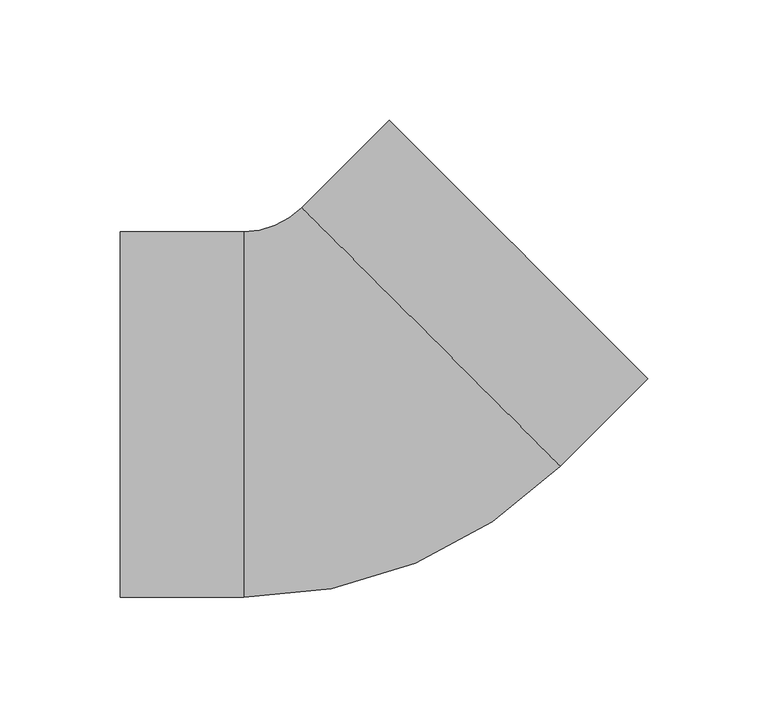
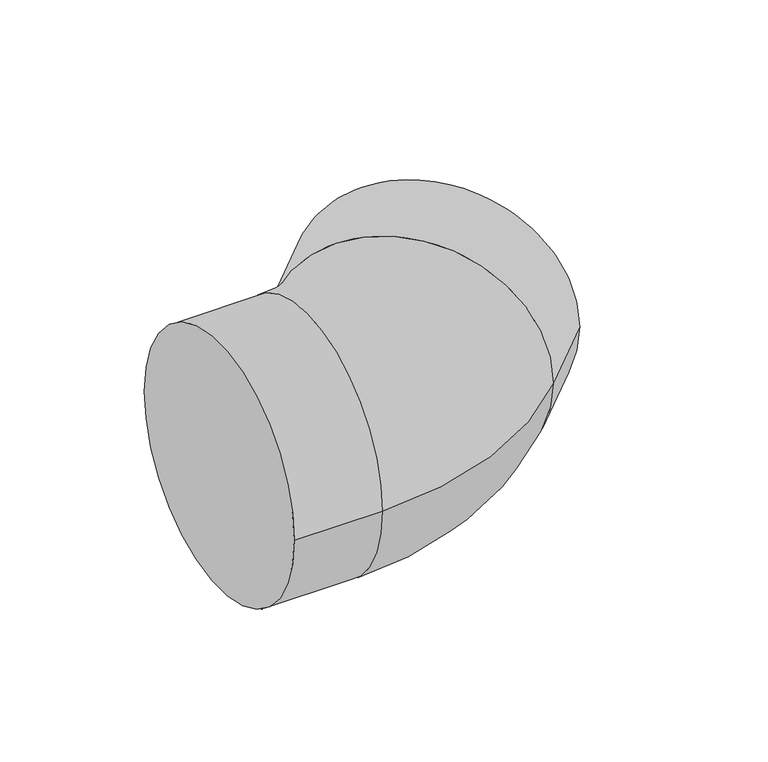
"""IFC4 building model written with IfcOpenShell, lengths in millimetres: pipe fitting geometry, PipeFitting_HTA_CPVC_Elbows : 125mm x 45°."""

from ifc_helpers import new_model, si_unit, point, frame, origin, place, context, project, spatial, circle_curve, ellipse_curve, trimmed, source, transform, mapped, element, save
from ifc_brep_helpers import plane_surface, cylinder_surface, revolved_surface, advanced_brep


def pipe_fitting_5153c6fe(model_context):
    return source(origin(), model_context, "Body", "AdvancedBrep", [
        advanced_brep(
        [(-97.0, -76.0, 0.0), (-97.0, 76.0, 0.0), (-45.5634919, -76.0, 0.0), (-45.5634919, 76.0, 0.0), (-21.5218613, 85.9583694, 0.0), (85.9583694, -21.5218613, 0.0), (122.3294731, 14.8492424, 0.0), (14.8492424, 122.3294731, 0.0)],
        [
            (0, 1, circle_curve(frame((-97.0, 0.0, 0.0), z_axis=(-1.0, 0.0, 0.0), x_axis=(0.0, 1.0, 0.0)), 76.0)),
            (1, 0, circle_curve(frame((-97.0, 0.0, 0.0), z_axis=(-1.0, 0.0, 0.0), x_axis=(0.0, 1.0, 0.0)), 76.0)),
            (0, 2),
            (2, 3, circle_curve(frame((-45.5634919, 0.0, 0.0), z_axis=(-1.0, 0.0, 0.0), x_axis=(0.0, 1.0, 0.0)), 76.0)),
            (3, 1),
            (3, 2, circle_curve(frame((-45.5634919, 0.0, 0.0), z_axis=(-1.0, 0.0, 0.0), x_axis=(0.0, 1.0, 0.0)), 76.0)),
            (4, 3, circle_curve(frame((-45.5634919, 110.0, 0.0), z_axis=(0.0, 0.0, -1.0), x_axis=(0.0, -1.0, 0.0)), 34.0)),
            (2, 5, circle_curve(frame((-45.5634919, 110.0, 0.0), z_axis=(0.0, 0.0, 1.0), x_axis=(0.0, -1.0, 0.0)), 186.0)),
            (5, 4, circle_curve(frame((32.2182541, 32.2182541, 0.0), z_axis=(-0.7071067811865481, -0.7071067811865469, 0.0), x_axis=(-0.7071067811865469, 0.7071067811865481, 0.0)), 76.0)),
            (4, 5, circle_curve(frame((32.2182541, 32.2182541, 0.0), z_axis=(-0.7071067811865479, -0.7071067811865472, 0.0), x_axis=(-0.7071067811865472, 0.7071067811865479, 0.0)), 76.0)),
            (6, 7, circle_curve(frame((68.5893578, 68.5893578, 0.0), z_axis=(0.7071067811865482, 0.7071067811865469, 0.0), x_axis=(-0.7071067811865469, 0.7071067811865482, 0.0)), 76.0)),
            (7, 6, circle_curve(frame((68.5893578, 68.5893578, 0.0), z_axis=(0.7071067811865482, 0.7071067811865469, 0.0), x_axis=(-0.7071067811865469, 0.7071067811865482, 0.0)), 76.0)),
            (5, 6),
            (7, 4),
        ],
        [
            plane_surface(frame((-97.0, 0.0, 0.0), z_axis=(-1.0, 0.0, 0.0), x_axis=(0.0, 0.0, 1.0))),
            cylinder_surface(frame((-97.0, 0.0, 0.0), z_axis=(-1.0, 0.0, 0.0), x_axis=(0.0, 1.0, 0.0)), 76.0),
            revolved_surface(trimmed(ellipse_curve(frame((-45.5634919, 0.0, 0.0), z_axis=(-1.0, 0.0, 0.0), x_axis=(0.0, 1.0, 0.0)), 76.0, 76.0), [point((-45.5634919, -76.0, 0.0))], [point((-45.5634919, 76.0, 0.0))], True, "CARTESIAN"), (-45.5634919, 110.0, 0.0), (0.0, 0.0, 1.0)),
            revolved_surface(trimmed(ellipse_curve(frame((-45.5634919, 0.0, 0.0), z_axis=(-1.0, 0.0, 0.0), x_axis=(0.0, 1.0, 0.0)), 76.0, 76.0), [point((-45.5634919, 76.0, 0.0))], [point((-45.5634919, -76.0, 0.0))], True, "CARTESIAN"), (-45.5634919, 110.0, 0.0), (0.0, 0.0, 1.0)),
            plane_surface(frame((68.5893578, 68.5893578, 0.0), z_axis=(0.7071067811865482, 0.7071067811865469, 0.0), x_axis=(0.0, 0.0, 1.0))),
            cylinder_surface(frame((32.2182541, 32.2182541, 0.0), z_axis=(-0.7071067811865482, -0.7071067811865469, 0.0), x_axis=(-0.7071067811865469, 0.7071067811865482, 0.0)), 76.0),
        ],
        [
            (0, [[1, 2]]),
            (1, [[-1, 3, 4, 5]]),
            (1, [[-2, -5, 6, -3]]),
            (2, [[7, -4, 8, 9]]),
            (3, [[-8, -6, -7, 10]]),
            (4, [[11, 12]]),
            (5, [[-9, 13, -12, 14]]),
            (5, [[-10, -14, -11, -13]]),
        ],
    ),
    ])


if __name__ == "__main__":
    model = new_model("IFC4")
    model_context = context("Model", 3, world=origin())
    ifc_project = project(units=[si_unit("LENGTHUNIT", "METRE", prefix="MILLI")], contexts=[model_context])
    site = spatial("IfcSite", under=ifc_project)
    building = spatial("IfcBuilding", under=site)
    placement = place(None, origin())
    pipe_fitting_shape = pipe_fitting_5153c6fe(model_context)
    element("IfcPipeFitting", 1, ObjectType="PipeFitting_HTA_CPVC_Elbows : 125mm x 45°", at=placement, inside=building, context=model_context, shape_type="MappedRepresentation", body=[
        mapped(pipe_fitting_shape, transform((0.0, 0.0, 0.0), x_axis=(1.0, 0.0, 0.0), y_axis=(0.0, 1.0, 0.0), z_axis=(0.0, 0.0, 1.0))),
    ])
    save(model, "model.ifc")
